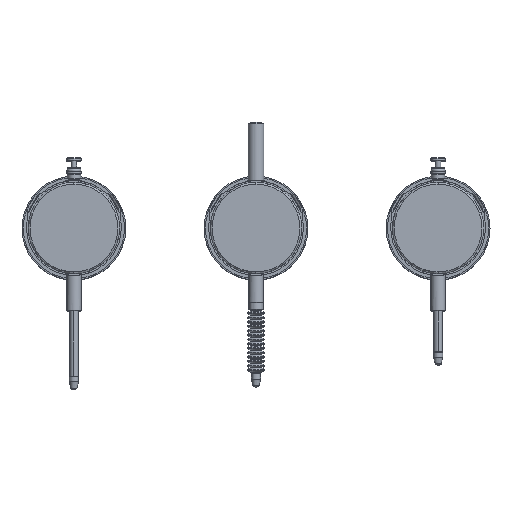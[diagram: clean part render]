
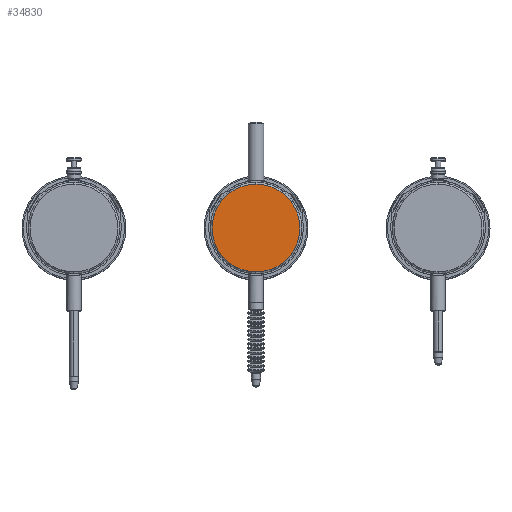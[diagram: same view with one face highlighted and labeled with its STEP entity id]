
A CAD part, top view. The second image highlights one B-rep face of the part: STEP entity #34830.
In plain terms, the highlighted planar face has unit normal (0, 0, 1).
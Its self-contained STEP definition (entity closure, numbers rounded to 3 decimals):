
#34430=CARTESIAN_POINT('',(-27.085,22.618,
7.6));
#34440=VERTEX_POINT('',#34430);
#34470=CARTESIAN_POINT('',(-2.985,22.618,
7.6));
#34480=DIRECTION('',(0.,0.,1.));
#34490=DIRECTION('',(-1.,0.,0.));
#34500=AXIS2_PLACEMENT_3D('',#34470,#34480,#34490);
#34510=CIRCLE('',#34500,24.1);
#34520=CARTESIAN_POINT('',(-27.085,22.544,
7.6));
#34530=VERTEX_POINT('',#34520);
#34540=EDGE_CURVE('',#34440,#34530,#34510,.T.);
#34560=CARTESIAN_POINT('',(21.115,22.618,
7.6));
#34570=VERTEX_POINT('',#34560);
#34580=EDGE_CURVE('',#34530,#34570,#34510,.T.);
#34720=CARTESIAN_POINT('',(9.065,22.618,
7.6));
#34730=DIRECTION('',(0.,0.,1.));
#34740=DIRECTION('',(-1.,0.,0.));
#34750=AXIS2_PLACEMENT_3D('',#34720,#34730,#34740);
#34760=PLANE('',#34750);
#34770=EDGE_CURVE('',#34570,#34440,#34510,.T.);
#34780=ORIENTED_EDGE('',*,*,#34770,.T.);
#34790=ORIENTED_EDGE('',*,*,#34580,.T.);
#34800=ORIENTED_EDGE('',*,*,#34540,.T.);
#34810=EDGE_LOOP('',(#34800,#34790,#34780));
#34820=FACE_OUTER_BOUND('',#34810,.T.);
#34830=ADVANCED_FACE('',(#34820),#34760,.T.);
